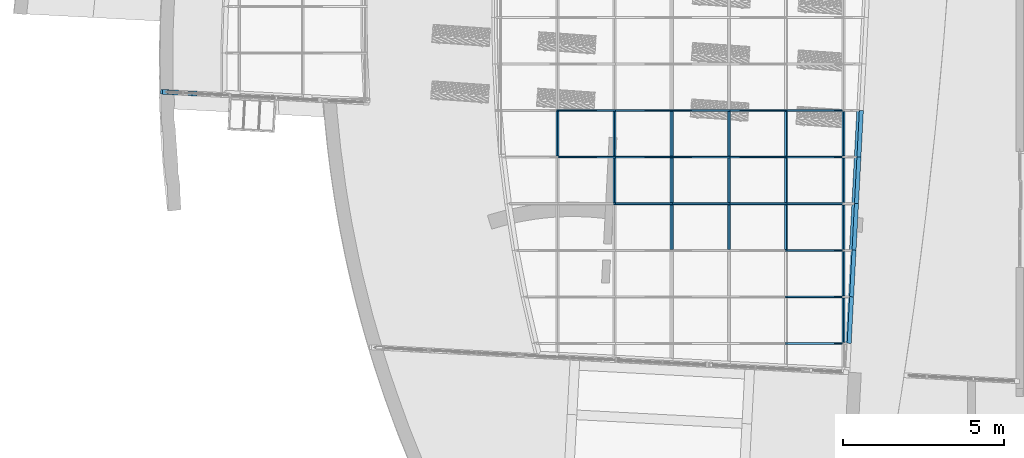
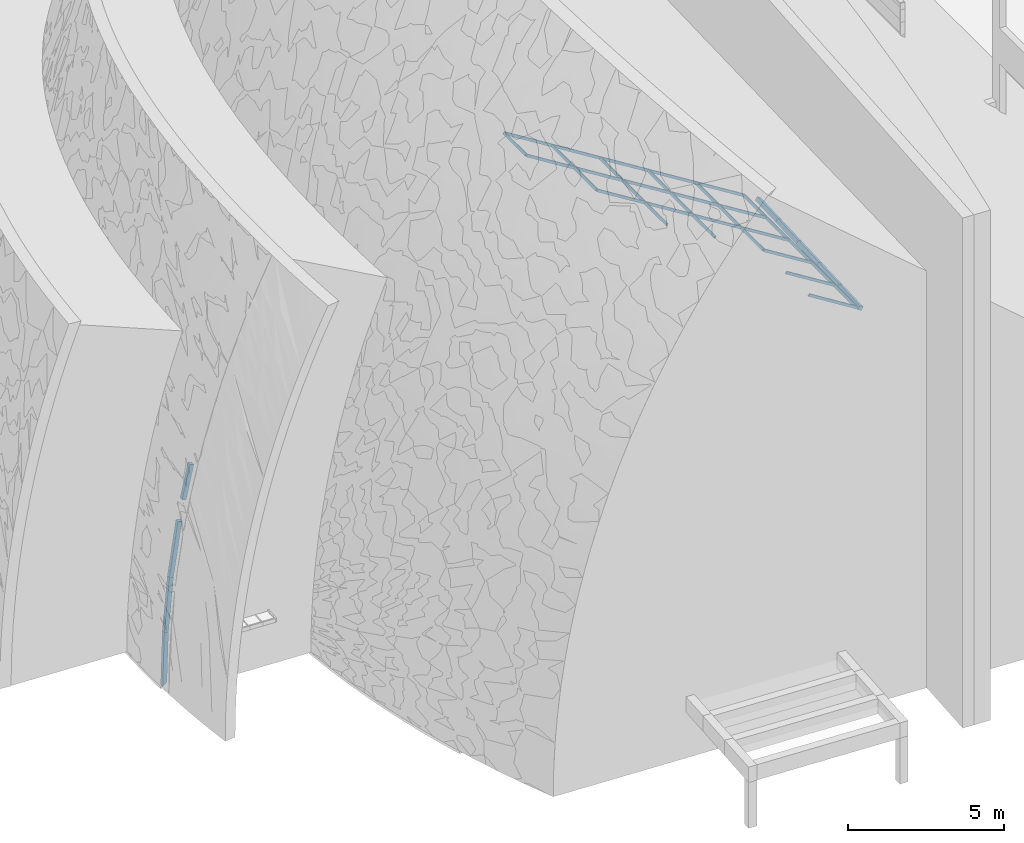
# One storey, part 7 of 82: 43 members, 2 elements without a shape of their own.
"""IFC2X3 building model written with IfcOpenShell, lengths in millimetres."""

from ifc_helpers import new_model, entity, si_unit, converted_unit, derived_unit, direction, frame, frame_2d, origin, origin_2d_with_axis, place, context, subcontext, project, spatial, rectangle, extrude, clip, halfspace, source, transform, mapped, material, type_object, type_shapes, element, aggregate, save


model = new_model("IFC2X3")

# Units and contexts
model_context = context("Model", 3, precision=0.01, world=origin(), true_north=direction((6.12303176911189e-17, 1.0)))
body_context = subcontext(model_context, "Body", "Model", "MODEL_VIEW")
ifc_project = project(units=[si_unit("LENGTHUNIT", "METRE", prefix="MILLI"), si_unit("AREAUNIT", "SQUARE_METRE"), si_unit("VOLUMEUNIT", "CUBIC_METRE"), converted_unit("PLANEANGLEUNIT", "DEGREE", entity("IfcRatioMeasure", 0.0174532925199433), si_unit("PLANEANGLEUNIT", "RADIAN"), dimensions=[0, 0, 0, 0, 0, 0, 0]), si_unit("MASSUNIT", "GRAM", prefix="KILO"), derived_unit("MASSDENSITYUNIT", [(si_unit("MASSUNIT", "GRAM", prefix="KILO"), 1), (si_unit("LENGTHUNIT", "METRE"), -3)]), si_unit("TIMEUNIT", "SECOND"), si_unit("FREQUENCYUNIT", "HERTZ"), si_unit("THERMODYNAMICTEMPERATUREUNIT", "DEGREE_CELSIUS"), derived_unit("THERMALTRANSMITTANCEUNIT", [(si_unit("MASSUNIT", "GRAM", prefix="KILO"), 1), (si_unit("THERMODYNAMICTEMPERATUREUNIT", "KELVIN"), -1), (si_unit("TIMEUNIT", "SECOND"), -3)]), derived_unit("VOLUMETRICFLOWRATEUNIT", [(si_unit("LENGTHUNIT", "METRE"), 3), (si_unit("TIMEUNIT", "SECOND"), -1)]), si_unit("ELECTRICCURRENTUNIT", "AMPERE"), si_unit("ELECTRICVOLTAGEUNIT", "VOLT"), si_unit("POWERUNIT", "WATT"), si_unit("FORCEUNIT", "NEWTON", prefix="KILO"), si_unit("ILLUMINANCEUNIT", "LUX"), si_unit("LUMINOUSFLUXUNIT", "LUMEN"), si_unit("LUMINOUSINTENSITYUNIT", "CANDELA"), derived_unit("USERDEFINED", [(si_unit("MASSUNIT", "GRAM", prefix="KILO"), -1), (si_unit("LENGTHUNIT", "METRE"), -2), (si_unit("TIMEUNIT", "SECOND"), 3), (si_unit("LUMINOUSFLUXUNIT", "LUMEN"), 1)]), derived_unit("LINEARVELOCITYUNIT", [(si_unit("LENGTHUNIT", "METRE"), 1), (si_unit("TIMEUNIT", "SECOND"), -1)]), si_unit("PRESSUREUNIT", "PASCAL"), derived_unit("USERDEFINED", [(si_unit("LENGTHUNIT", "METRE"), -2), (si_unit("MASSUNIT", "GRAM", prefix="KILO"), 1), (si_unit("TIMEUNIT", "SECOND"), -2)])], contexts=[model_context])

# Site, building, storey
site_placement = place(None, origin())
site = spatial("IfcSite", under=ifc_project, at=site_placement, Name="表面", CompositionType="ELEMENT")
building_placement = place(site_placement, origin())
building = spatial("IfcBuilding", under=site, at=building_placement, CompositionType="ELEMENT")
storey_placement = place(building_placement, origin())
storey = spatial("IfcBuildingStorey", under=building, at=storey_placement, Name="1F", CompositionType="ELEMENT", Elevation=0.0)

# Curtain wall, members
curtain_wall_type = type_object("IfcCurtainWallType", Name="幕墙系统:1450 x 2100mm", PredefinedType="NOTDEFINED")
curtain_wall_1_placement = place(storey_placement, origin())
curtain_wall_1 = element("IfcCurtainWall", 1, at=curtain_wall_1_placement, inside=storey, type_object=curtain_wall_type, Name="幕墙系统:1450 x 2100mm", ObjectType="幕墙系统:1450 x 2100mm")
ifc_material_1 = material(Name="金属 - 铝")
member_type_1 = type_object("IfcMemberType", Name="50 x 100mm", PredefinedType="MEMBER")
shared_shape_1 = source(origin(), body_context, "Body", "SweptSolid", [
    extrude(rectangle(XDim=100.0, YDim=50.0, at=origin_2d_with_axis()), frame((0.0, 0.0, -1400.0), z_axis=(0.0, 0.0, 1.0), x_axis=(0.0, -1.0, 0.0)), (0.0, 0.0, 1.0), 1400.0),
])
type_shapes(member_type_1, [shared_shape_1])
placement_1 = place(building_placement, frame((0.0, 0.0, 9000.0)))
member_1_placement = place(placement_1, frame((-19919.0996129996, -20663.9031535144, 3143.03179701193), z_axis=(0.0, 1.0, 0.0), x_axis=(-0.848048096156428, 0.0, 0.529919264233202)))
member_1 = element("IfcMember", 2, at=member_1_placement, type_object=member_type_1, material=ifc_material_1, Name="矩形竖梃:50 x 100mm", ObjectType="50 x 100mm", context=body_context, shape_type="MappedRepresentation", body=[
    mapped(shared_shape_1, transform((0.0, 0.0, 0.0), scale=1.0)),
])
member_2_placement = place(placement_1, frame((-19919.0996129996, -22113.9031535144, 3143.03179701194), z_axis=(0.0, 1.0, 0.0), x_axis=(-0.848048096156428, 0.0, 0.529919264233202)))
member_2 = element("IfcMember", 3, at=member_2_placement, type_object=member_type_1, material=ifc_material_1, Name="矩形竖梃:50 x 100mm", ObjectType="50 x 100mm", context=body_context, shape_type="MappedRepresentation", body=[
    mapped(shared_shape_1, transform((0.0, 0.0, 0.0), scale=1.0)),
])
member_3_placement = place(placement_1, frame((-19919.0996129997, -23563.9031535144, 3143.03179701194), z_axis=(0.0, 1.0, 0.0), x_axis=(-0.848048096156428, 0.0, 0.529919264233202)))
member_3 = element("IfcMember", 4, at=member_3_placement, type_object=member_type_1, material=ifc_material_1, Name="矩形竖梃:50 x 100mm", ObjectType="50 x 100mm", context=body_context, shape_type="MappedRepresentation", body=[
    mapped(shared_shape_1, transform((0.0, 0.0, 0.0), scale=1.0)),
])
member_4_placement = place(placement_1, frame((-19919.0996129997, -25013.9031535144, 3143.03179701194), z_axis=(0.0, 1.0, 0.0), x_axis=(-0.848048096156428, 0.0, 0.529919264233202)))
member_4 = element("IfcMember", 5, at=member_4_placement, type_object=member_type_1, material=ifc_material_1, Name="矩形竖梃:50 x 100mm", ObjectType="50 x 100mm", context=body_context, shape_type="MappedRepresentation", body=[
    mapped(shared_shape_1, transform((0.0, 0.0, 0.0), scale=1.0)),
])
member_5_placement = place(placement_1, frame((-19919.0996129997, -26463.9031535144, 3143.03179701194), z_axis=(0.0, 1.0, 0.0), x_axis=(-0.848048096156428, 0.0, 0.529919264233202)))
member_5 = element("IfcMember", 6, at=member_5_placement, type_object=member_type_1, material=ifc_material_1, Name="矩形竖梃:50 x 100mm", ObjectType="50 x 100mm", context=body_context, shape_type="MappedRepresentation", body=[
    mapped(shared_shape_1, transform((0.0, 0.0, 0.0), scale=1.0)),
])
member_6_placement = place(placement_1, frame((-21700.0006149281, -20663.9031535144, 4255.86225190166), z_axis=(0.0, 1.0, 0.0), x_axis=(-0.848048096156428, 0.0, 0.529919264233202)))
member_6 = element("IfcMember", 7, at=member_6_placement, type_object=member_type_1, material=ifc_material_1, Name="矩形竖梃:50 x 100mm", ObjectType="50 x 100mm", context=body_context, shape_type="MappedRepresentation", body=[
    mapped(shared_shape_1, transform((0.0, 0.0, 0.0), scale=1.0)),
])
member_7_placement = place(placement_1, frame((-21700.0006149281, -22113.9031535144, 4255.86225190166), z_axis=(0.0, 1.0, 0.0), x_axis=(-0.848048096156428, 0.0, 0.529919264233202)))
member_7 = element("IfcMember", 8, at=member_7_placement, type_object=member_type_1, material=ifc_material_1, Name="矩形竖梃:50 x 100mm", ObjectType="50 x 100mm", context=body_context, shape_type="MappedRepresentation", body=[
    mapped(shared_shape_1, transform((0.0, 0.0, 0.0), scale=1.0)),
])
member_8_placement = place(placement_1, frame((-21700.0006149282, -23563.9031535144, 4255.86225190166), z_axis=(0.0, 1.0, 0.0), x_axis=(-0.848048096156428, 0.0, 0.529919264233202)))
member_8 = element("IfcMember", 9, at=member_8_placement, type_object=member_type_1, material=ifc_material_1, Name="矩形竖梃:50 x 100mm", ObjectType="50 x 100mm", context=body_context, shape_type="MappedRepresentation", body=[
    mapped(shared_shape_1, transform((0.0, 0.0, 0.0), scale=1.0)),
])
member_9_placement = place(placement_1, frame((-23480.9016168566, -20663.9031535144, 5368.69270679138), z_axis=(0.0, 1.0, 0.0), x_axis=(-0.848048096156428, 0.0, 0.529919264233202)))
member_9 = element("IfcMember", 10, at=member_9_placement, type_object=member_type_1, material=ifc_material_1, Name="矩形竖梃:50 x 100mm", ObjectType="50 x 100mm", context=body_context, shape_type="MappedRepresentation", body=[
    mapped(shared_shape_1, transform((0.0, 0.0, 0.0), scale=1.0)),
])
member_10_placement = place(placement_1, frame((-23480.9016168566, -22113.9031535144, 5368.69270679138), z_axis=(0.0, 1.0, 0.0), x_axis=(-0.848048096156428, 0.0, 0.529919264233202)))
member_10 = element("IfcMember", 11, at=member_10_placement, type_object=member_type_1, material=ifc_material_1, Name="矩形竖梃:50 x 100mm", ObjectType="50 x 100mm", context=body_context, shape_type="MappedRepresentation", body=[
    mapped(shared_shape_1, transform((0.0, 0.0, 0.0), scale=1.0)),
])
member_11_placement = place(placement_1, frame((-23480.9016168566, -23563.9031535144, 5368.69270679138), z_axis=(0.0, 1.0, 0.0), x_axis=(-0.848048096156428, 0.0, 0.529919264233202)))
member_11 = element("IfcMember", 12, at=member_11_placement, type_object=member_type_1, material=ifc_material_1, Name="矩形竖梃:50 x 100mm", ObjectType="50 x 100mm", context=body_context, shape_type="MappedRepresentation", body=[
    mapped(shared_shape_1, transform((0.0, 0.0, 0.0), scale=1.0)),
])
member_12_placement = place(placement_1, frame((-25261.8026187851, -20663.9031535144, 6481.5231616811), z_axis=(0.0, 1.0, 0.0), x_axis=(-0.848048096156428, 0.0, 0.529919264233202)))
member_12 = element("IfcMember", 13, at=member_12_placement, type_object=member_type_1, material=ifc_material_1, Name="矩形竖梃:50 x 100mm", ObjectType="50 x 100mm", context=body_context, shape_type="MappedRepresentation", body=[
    mapped(shared_shape_1, transform((0.0, 0.0, 0.0), scale=1.0)),
])
member_13_placement = place(placement_1, frame((-25261.8026187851, -22113.9031535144, 6481.52316168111), z_axis=(0.0, 1.0, 0.0), x_axis=(-0.848048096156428, 0.0, 0.529919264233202)))
member_13 = element("IfcMember", 14, at=member_13_placement, type_object=member_type_1, material=ifc_material_1, Name="矩形竖梃:50 x 100mm", ObjectType="50 x 100mm", context=body_context, shape_type="MappedRepresentation", body=[
    mapped(shared_shape_1, transform((0.0, 0.0, 0.0), scale=1.0)),
])
member_14_placement = place(placement_1, frame((-25261.8026187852, -23563.9031535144, 6481.52316168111), z_axis=(0.0, 1.0, 0.0), x_axis=(-0.848048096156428, 0.0, 0.529919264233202)))
member_14 = element("IfcMember", 15, at=member_14_placement, type_object=member_type_1, material=ifc_material_1, Name="矩形竖梃:50 x 100mm", ObjectType="50 x 100mm", context=body_context, shape_type="MappedRepresentation", body=[
    mapped(shared_shape_1, transform((0.0, 0.0, 0.0), scale=1.0)),
])
member_15_placement = place(placement_1, frame((-27042.7036207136, -20663.9031535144, 7594.35361657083), z_axis=(0.0, 1.0, 0.0), x_axis=(-0.848048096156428, 0.0, 0.529919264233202)))
member_15 = element("IfcMember", 16, at=member_15_placement, type_object=member_type_1, material=ifc_material_1, Name="矩形竖梃:50 x 100mm", ObjectType="50 x 100mm", context=body_context, shape_type="MappedRepresentation", body=[
    mapped(shared_shape_1, transform((0.0, 0.0, 0.0), scale=1.0)),
])
member_16_placement = place(placement_1, frame((-27042.7036207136, -22113.9031535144, 7594.35361657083), z_axis=(0.0, 1.0, 0.0), x_axis=(-0.848048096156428, 0.0, 0.529919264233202)))
member_16 = element("IfcMember", 17, at=member_16_placement, type_object=member_type_1, material=ifc_material_1, Name="矩形竖梃:50 x 100mm", ObjectType="50 x 100mm", context=body_context, shape_type="MappedRepresentation", body=[
    mapped(shared_shape_1, transform((0.0, 0.0, 0.0), scale=1.0)),
])
member_17_placement = place(placement_1, frame((-28823.6046226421, -20663.9031535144, 8707.18407146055), z_axis=(0.0, 1.0, 0.0), x_axis=(-0.848048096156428, 0.0, 0.529919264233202)))
member_17 = element("IfcMember", 18, at=member_17_placement, type_object=member_type_1, material=ifc_material_1, Name="矩形竖梃:50 x 100mm", ObjectType="50 x 100mm", context=body_context, shape_type="MappedRepresentation", body=[
    mapped(shared_shape_1, transform((0.0, 0.0, 0.0), scale=1.0)),
])
member_type_2 = type_object("IfcMemberType", Name="50 x 100mm", PredefinedType="MEMBER")
shared_shape_2 = source(origin(), body_context, "Body", "SweptSolid", [
    extrude(rectangle(XDim=100.0, YDim=50.0, at=origin_2d_with_axis()), frame((0.0, 0.0, -2100.0), z_axis=(0.0, 0.0, 1.0), x_axis=(0.0, -1.0, 0.0)), (0.0, 0.0, 1.0), 2100.0),
])
type_shapes(member_type_2, [shared_shape_2])
member_18_placement = place(placement_1, frame((-21700.0006149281, -20638.9031535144, 4255.86225190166), z_axis=(-0.848048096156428, 0.0, 0.529919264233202), x_axis=(0.0, -1.0, 0.0)))
member_18 = element("IfcMember", 19, at=member_18_placement, type_object=member_type_2, material=ifc_material_1, Name="矩形竖梃:50 x 100mm", ObjectType="50 x 100mm", context=body_context, shape_type="MappedRepresentation", body=[
    mapped(shared_shape_2, transform((0.0, 0.0, 0.0), scale=1.0)),
])
member_19_placement = place(placement_1, frame((-21700.0006149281, -22088.9031535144, 4255.86225190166), z_axis=(-0.848048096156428, 0.0, 0.529919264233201), x_axis=(0.0, -1.0, 0.0)))
member_19 = element("IfcMember", 20, at=member_19_placement, type_object=member_type_2, material=ifc_material_1, Name="矩形竖梃:50 x 100mm", ObjectType="50 x 100mm", context=body_context, shape_type="MappedRepresentation", body=[
    mapped(shared_shape_2, transform((0.0, 0.0, 0.0), scale=1.0)),
])
member_20_placement = place(placement_1, frame((-21700.0006149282, -23538.9031535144, 4255.86225190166), z_axis=(-0.848048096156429, 0.0, 0.529919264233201), x_axis=(0.0, -1.0, 0.0)))
member_20 = element("IfcMember", 21, at=member_20_placement, type_object=member_type_2, material=ifc_material_1, Name="矩形竖梃:50 x 100mm", ObjectType="50 x 100mm", context=body_context, shape_type="MappedRepresentation", body=[
    mapped(shared_shape_2, transform((0.0, 0.0, 0.0), scale=1.0)),
])
member_21_placement = place(placement_1, frame((-21700.0006149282, -24988.9031535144, 4255.86225190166), z_axis=(-0.848048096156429, 0.0, 0.529919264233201), x_axis=(0.0, -1.0, 0.0)))
member_21 = element("IfcMember", 22, at=member_21_placement, type_object=member_type_2, material=ifc_material_1, Name="矩形竖梃:50 x 100mm", ObjectType="50 x 100mm", context=body_context, shape_type="MappedRepresentation", body=[
    mapped(shared_shape_2, transform((0.0, 0.0, 0.0), scale=1.0)),
])
member_22_placement = place(placement_1, frame((-21700.0006149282, -26438.9031535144, 4255.86225190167), z_axis=(-0.848048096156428, 0.0, 0.529919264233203), x_axis=(0.0, -1.0, 0.0)))
member_22 = element("IfcMember", 23, at=member_22_placement, type_object=member_type_2, material=ifc_material_1, Name="矩形竖梃:50 x 100mm", ObjectType="50 x 100mm", context=body_context, shape_type="MappedRepresentation", body=[
    mapped(shared_shape_2, transform((0.0, 0.0, 0.0), scale=1.0)),
])
member_23_placement = place(placement_1, frame((-21700.0006149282, -27888.9031535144, 4255.86225190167), z_axis=(-0.848048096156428, 0.0, 0.529919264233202), x_axis=(0.0, -1.0, 0.0)))
member_23 = element("IfcMember", 24, at=member_23_placement, type_object=member_type_2, material=ifc_material_1, Name="矩形竖梃:50 x 100mm", ObjectType="50 x 100mm", context=body_context, shape_type="MappedRepresentation", body=[
    mapped(shared_shape_2, transform((0.0, 0.0, 0.0), scale=1.0)),
])
member_24_placement = place(placement_1, frame((-23480.9016168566, -20638.9031535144, 5368.69270679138), z_axis=(-0.848048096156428, 0.0, 0.529919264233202), x_axis=(0.0, -1.0, 0.0)))
member_24 = element("IfcMember", 25, at=member_24_placement, type_object=member_type_2, material=ifc_material_1, Name="矩形竖梃:50 x 100mm", ObjectType="50 x 100mm", context=body_context, shape_type="MappedRepresentation", body=[
    mapped(shared_shape_2, transform((0.0, 0.0, 0.0), scale=1.0)),
])
member_25_placement = place(placement_1, frame((-23480.9016168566, -22088.9031535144, 5368.69270679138), z_axis=(-0.848048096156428, 0.0, 0.529919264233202), x_axis=(0.0, -1.0, 0.0)))
member_25 = element("IfcMember", 26, at=member_25_placement, type_object=member_type_2, material=ifc_material_1, Name="矩形竖梃:50 x 100mm", ObjectType="50 x 100mm", context=body_context, shape_type="MappedRepresentation", body=[
    mapped(shared_shape_2, transform((0.0, 0.0, 0.0), scale=1.0)),
])
member_26_placement = place(placement_1, frame((-23480.9016168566, -23538.9031535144, 5368.69270679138), z_axis=(-0.848048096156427, 0.0, 0.529919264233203), x_axis=(0.0, -1.0, 0.0)))
member_26 = element("IfcMember", 27, at=member_26_placement, type_object=member_type_2, material=ifc_material_1, Name="矩形竖梃:50 x 100mm", ObjectType="50 x 100mm", context=body_context, shape_type="MappedRepresentation", body=[
    mapped(shared_shape_2, transform((0.0, 0.0, 0.0), scale=1.0)),
])
member_27_placement = place(placement_1, frame((-25261.8026187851, -20638.9031535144, 6481.52316168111), z_axis=(-0.848048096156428, 0.0, 0.529919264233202), x_axis=(0.0, -1.0, 0.0)))
member_27 = element("IfcMember", 28, at=member_27_placement, type_object=member_type_2, material=ifc_material_1, Name="矩形竖梃:50 x 100mm", ObjectType="50 x 100mm", context=body_context, shape_type="MappedRepresentation", body=[
    mapped(shared_shape_2, transform((0.0, 0.0, 0.0), scale=1.0)),
])
member_28_placement = place(placement_1, frame((-25261.8026187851, -22088.9031535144, 6481.52316168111), z_axis=(-0.848048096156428, 0.0, 0.529919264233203), x_axis=(0.0, -1.0, 0.0)))
member_28 = element("IfcMember", 29, at=member_28_placement, type_object=member_type_2, material=ifc_material_1, Name="矩形竖梃:50 x 100mm", ObjectType="50 x 100mm", context=body_context, shape_type="MappedRepresentation", body=[
    mapped(shared_shape_2, transform((0.0, 0.0, 0.0), scale=1.0)),
])
member_29_placement = place(placement_1, frame((-25261.8026187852, -23538.9031535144, 6481.52316168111), z_axis=(-0.848048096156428, 0.0, 0.529919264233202), x_axis=(0.0, -1.0, 0.0)))
member_29 = element("IfcMember", 30, at=member_29_placement, type_object=member_type_2, material=ifc_material_1, Name="矩形竖梃:50 x 100mm", ObjectType="50 x 100mm", context=body_context, shape_type="MappedRepresentation", body=[
    mapped(shared_shape_2, transform((0.0, 0.0, 0.0), scale=1.0)),
])
member_30_placement = place(placement_1, frame((-27042.7036207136, -20638.9031535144, 7594.35361657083), z_axis=(-0.848048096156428, 0.0, 0.529919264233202), x_axis=(0.0, -1.0, 0.0)))
member_30 = element("IfcMember", 31, at=member_30_placement, type_object=member_type_2, material=ifc_material_1, Name="矩形竖梃:50 x 100mm", ObjectType="50 x 100mm", context=body_context, shape_type="MappedRepresentation", body=[
    mapped(shared_shape_2, transform((0.0, 0.0, 0.0), scale=1.0)),
])
member_31_placement = place(placement_1, frame((-27042.7036207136, -22088.9031535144, 7594.35361657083), z_axis=(-0.848048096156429, 0.0, 0.529919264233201), x_axis=(0.0, -1.0, 0.0)))
member_31 = element("IfcMember", 32, at=member_31_placement, type_object=member_type_2, material=ifc_material_1, Name="矩形竖梃:50 x 100mm", ObjectType="50 x 100mm", context=body_context, shape_type="MappedRepresentation", body=[
    mapped(shared_shape_2, transform((0.0, 0.0, 0.0), scale=1.0)),
])
member_32_placement = place(placement_1, frame((-27042.7036207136, -23538.9031535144, 7594.35361657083), z_axis=(-0.848048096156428, 0.0, 0.529919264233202), x_axis=(0.0, -1.0, 0.0)))
member_32 = element("IfcMember", 33, at=member_32_placement, type_object=member_type_2, material=ifc_material_1, Name="矩形竖梃:50 x 100mm", ObjectType="50 x 100mm", context=body_context, shape_type="MappedRepresentation", body=[
    mapped(shared_shape_2, transform((0.0, 0.0, 0.0), scale=1.0)),
])
member_33_placement = place(placement_1, frame((-28823.6046226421, -20638.9031535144, 8707.18407146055), z_axis=(-0.848048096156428, 0.0, 0.529919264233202), x_axis=(0.0, -1.0, 0.0)))
member_33 = element("IfcMember", 34, at=member_33_placement, type_object=member_type_2, material=ifc_material_1, Name="矩形竖梃:50 x 100mm", ObjectType="50 x 100mm", context=body_context, shape_type="MappedRepresentation", body=[
    mapped(shared_shape_2, transform((0.0, 0.0, 0.0), scale=1.0)),
])
member_34_placement = place(placement_1, frame((-28823.6046226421, -22088.9031535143, 8707.18407146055), z_axis=(-0.848048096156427, 0.0, 0.529919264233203), x_axis=(0.0, -1.0, 0.0)))
member_34 = element("IfcMember", 35, at=member_34_placement, type_object=member_type_2, material=ifc_material_1, Name="矩形竖梃:50 x 100mm", ObjectType="50 x 100mm", context=body_context, shape_type="MappedRepresentation", body=[
    mapped(shared_shape_2, transform((0.0, 0.0, 0.0), scale=1.0)),
])
ifc_material_2 = material(Name="木质 - 木材")
member_type_3 = type_object("IfcMemberType", Name="200 x 150mm", PredefinedType="MEMBER")
shared_shape_3 = source(origin(), body_context, "Body", "SweptSolid", [
    extrude(rectangle(XDim=150.0, YDim=150.0, at=frame_2d((2.8421709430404e-14, 0.0), x_axis=(1.0, 0.0))), frame((-75.0, 0.0, -1452.76614220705), z_axis=(0.0, 0.0, 1.0), x_axis=(0.0, -1.0, 0.0)), (0.0, 0.0, 1.0), 1452.76614220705),
])
type_shapes(member_type_3, [shared_shape_3])
member_35_placement = place(placement_1, frame((-19409.5538351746, -22088.9031535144, 2824.63225705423), z_axis=(-0.0523079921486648, -0.998095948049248, 0.0326856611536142), x_axis=(0.846433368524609, -0.0616804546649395, -0.528910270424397)))
member_35 = element("IfcMember", 36, at=member_35_placement, type_object=member_type_3, material=ifc_material_2, Name="矩形竖梃:200 x 150mm", ObjectType="200 x 150mm", context=body_context, shape_type="MappedRepresentation", body=[
    mapped(shared_shape_3, transform((0.0, 0.0, 0.0), scale=1.0)),
])
member_36_placement = place(placement_1, frame((-19485.545115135, -23538.9031535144, 2872.11687891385), z_axis=(-0.0523079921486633, -0.998095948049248, 0.0326856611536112), x_axis=(0.84643336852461, -0.0616804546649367, -0.528910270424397)))
member_36 = element("IfcMember", 37, at=member_36_placement, type_object=member_type_3, material=ifc_material_2, Name="矩形竖梃:200 x 150mm", ObjectType="200 x 150mm", context=body_context, shape_type="MappedRepresentation", body=[
    mapped(shared_shape_3, transform((0.0, 0.0, 0.0), scale=1.0)),
])
member_37_placement = place(placement_1, frame((-19561.5363950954, -24988.9031535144, 2919.60150077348), z_axis=(-0.0523079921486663, -0.998095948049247, 0.0326856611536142), x_axis=(0.846433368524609, -0.0616804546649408, -0.528910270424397)))
member_37 = element("IfcMember", 38, at=member_37_placement, type_object=member_type_3, material=ifc_material_2, Name="矩形竖梃:200 x 150mm", ObjectType="200 x 150mm", context=body_context, shape_type="MappedRepresentation", body=[
    mapped(shared_shape_3, transform((0.0, 0.0, 0.0), scale=1.0)),
])
member_38_placement = place(placement_1, frame((-19637.5276750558, -26438.9031535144, 2967.0861226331), z_axis=(-0.0523079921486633, -0.998095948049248, 0.0326856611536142), x_axis=(0.846433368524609, -0.0616804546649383, -0.528910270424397)))
member_38 = element("IfcMember", 39, at=member_38_placement, type_object=member_type_3, material=ifc_material_2, Name="矩形竖梃:200 x 150mm", ObjectType="200 x 150mm", context=body_context, shape_type="MappedRepresentation", body=[
    mapped(shared_shape_3, transform((0.0, 0.0, 0.0), scale=1.0)),
])
member_type_4 = type_object("IfcMemberType", Name="200 x 150mm", PredefinedType="MEMBER")
shared_shape_4 = source(origin(), body_context, "Body", "SweptSolid", [
    extrude(rectangle(XDim=150.0, YDim=150.0, at=frame_2d((2.8421709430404e-14, 0.0), x_axis=(1.0, 0.0))), frame((-75.0, 0.0, -1452.76614220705), z_axis=(0.0, 0.0, 1.0), x_axis=(0.0, -1.0, 0.0)), (0.0, 0.0, 1.0), 1452.76614220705),
])
type_shapes(member_type_4, [shared_shape_4])
member_39_placement = place(placement_1, frame((-19713.5189550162, -27888.9031535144, 3014.57074449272), z_axis=(-0.0523079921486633, -0.998095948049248, 0.0326856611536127), x_axis=(0.84643336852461, -0.0616804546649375, -0.528910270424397)))
member_39 = element("IfcMember", 40, at=member_39_placement, type_object=member_type_4, material=ifc_material_2, Name="矩形竖梃:200 x 150mm", ObjectType="200 x 150mm", context=body_context, shape_type="MappedRepresentation", body=[
    mapped(shared_shape_4, transform((0.0, 0.0, 0.0), scale=1.0)),
])
aggregate(curtain_wall_1, [member_35, member_36, member_37, member_38, member_39, member_1, member_2, member_3, member_4, member_5, member_6, member_7, member_8, member_9, member_10, member_11, member_12, member_13, member_14, member_15, member_16, member_17, member_18, member_19, member_20, member_21, member_22, member_23, member_24, member_25, member_26, member_27, member_28, member_29, member_30, member_31, member_32, member_33, member_34])

curtain_wall_2_placement = place(storey_placement, origin())
curtain_wall_2 = element("IfcCurtainWall", 41, at=curtain_wall_2_placement, inside=storey, type_object=curtain_wall_type, Name="幕墙系统:1450 x 2100mm", ObjectType="幕墙系统:1450 x 2100mm")
member_type_5 = type_object("IfcMemberType", Name="200 x 150mm", PredefinedType="MEMBER")
shared_shape_5 = source(origin(), body_context, "Body", "Clipping", [
    clip(clip(extrude(rectangle(XDim=150.0, YDim=150.0, at=origin_2d_with_axis()), frame((-75.0, 0.0, -2100.87704792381), z_axis=(0.0, 0.0, 1.0), x_axis=(0.0, -1.0, 0.0)), (0.0, 0.0, 1.0), 2100.87704792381), halfspace(frame((0.0, -304.8, -2100.87704792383), z_axis=(-0.717248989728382, 0.0, -0.696816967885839), x_axis=(-0.696816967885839, 0.0, 0.717248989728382)), False)), halfspace(frame((0.0, -304.800000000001, 0.0), z_axis=(-0.0289407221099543, 0.0, 0.999581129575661), x_axis=(-0.999581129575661, 0.0, -0.0289407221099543)), False)),
])
type_shapes(member_type_5, [shared_shape_5])
member_40_placement = place(storey_placement, frame((-41113.0369852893, -20054.4813030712, 2100.0), z_axis=(0.0288526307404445, -0.00151210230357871, 0.999582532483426), x_axis=(-0.998212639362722, 0.0523141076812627, 0.0288922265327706)))
member_40 = element("IfcMember", 42, at=member_40_placement, type_object=member_type_5, material=ifc_material_2, Name="矩形竖梃:200 x 150mm", ObjectType="200 x 150mm", context=body_context, shape_type="MappedRepresentation", body=[
    mapped(shared_shape_5, transform((0.0, 0.0, 0.0), scale=1.0)),
])
member_type_6 = type_object("IfcMemberType", Name="200 x 150mm", PredefinedType="MEMBER")
shared_shape_6 = source(origin(), body_context, "Body", "Clipping", [
    clip(clip(extrude(rectangle(XDim=150.0, YDim=150.0, at=frame_2d((0.0, 3.5527136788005e-14), x_axis=(1.0, 0.0))), frame((-75.0, 0.0, -2107.9332538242), z_axis=(0.0, 0.0, 1.0), x_axis=(0.0, -1.0, 0.0)), (0.0, 0.0, 1.0), 2107.9332538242), halfspace(frame((0.0, -304.799999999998, -2107.9332538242), z_axis=(-0.0289407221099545, 0.0, -0.999581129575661), x_axis=(-0.999581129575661, 0.0, 0.0289407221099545)), False)), halfspace(frame((0.0, -304.8, 0.0), z_axis=(-0.0290877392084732, 0.0, 0.999576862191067), x_axis=(-0.999576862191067, 0.0, -0.0290877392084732)), False)),
])
type_shapes(member_type_6, [shared_shape_6])
member_41_placement = place(storey_placement, frame((-40930.5783163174, -20064.043556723, 4200.0), z_axis=(0.0865580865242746, -0.00453631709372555, 0.99623647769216), x_axis=(-0.994871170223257, 0.0521389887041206, 0.0866768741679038)))
member_41 = element("IfcMember", 43, at=member_41_placement, type_object=member_type_6, material=ifc_material_2, Name="矩形竖梃:200 x 150mm", ObjectType="200 x 150mm", context=body_context, shape_type="MappedRepresentation", body=[
    mapped(shared_shape_6, transform((0.0, 0.0, 0.0), scale=1.0)),
])
member_type_7 = type_object("IfcMemberType", Name="200 x 150mm", PredefinedType="MEMBER")
shared_shape_7 = source(origin(), body_context, "Body", "Clipping", [
    clip(clip(extrude(rectangle(XDim=150.0, YDim=150.0, at=frame_2d((0.0, 4.9737991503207e-14), x_axis=(1.0, 0.0))), frame((-75.0, 0.0, -2122.26185153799), z_axis=(0.0, 0.0, 1.0), x_axis=(0.0, -1.0, 0.0)), (0.0, 0.0, 1.0), 2122.26185153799), halfspace(frame((0.0, -304.8, -2122.26185153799), z_axis=(-0.0290877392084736, 0.0, -0.999576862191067), x_axis=(-0.999576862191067, 0.0, 0.0290877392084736)), False)), halfspace(frame((0.0, -304.800000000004, 0.0), z_axis=(-0.0201955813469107, 0.0, 0.999796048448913), x_axis=(-0.999796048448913, 0.0, -0.0201955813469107)), False)),
])
type_shapes(member_type_7, [shared_shape_7])
placement_2 = place(building_placement, frame((0.0, 0.0, 3000.0)))
member_42_placement = place(placement_2, frame((-40624.4118448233, -20080.0890615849, 3300.0), z_axis=(0.144264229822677, -0.00756056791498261, 0.989510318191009), x_axis=(-0.988154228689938, 0.0517869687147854, 0.144462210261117)))
member_42 = element("IfcMember", 44, at=member_42_placement, type_object=member_type_7, material=ifc_material_2, Name="矩形竖梃:200 x 150mm", ObjectType="200 x 150mm", context=body_context, shape_type="MappedRepresentation", body=[
    mapped(shared_shape_7, transform((0.0, 0.0, 0.0), scale=1.0)),
])
member_type_8 = type_object("IfcMemberType", Name="200 x 150mm", PredefinedType="MEMBER")
shared_shape_8 = source(origin(), body_context, "Body", "Clipping", [
    clip(clip(extrude(rectangle(XDim=150.0, YDim=150.0, at=origin_2d_with_axis()), frame((-75.0, 0.0, -1329.89570677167), z_axis=(0.0, 0.0, 1.0), x_axis=(0.0, -1.0, 0.0)), (0.0, 0.0, 1.0), 1329.89570677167), halfspace(frame((0.0, -304.799999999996, -1329.89570677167), z_axis=(-0.0147464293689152, 0.0, -0.999891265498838), x_axis=(-0.999891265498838, 0.0, 0.0147464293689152)), False)), halfspace(frame((0.0, -304.8, 0.0), z_axis=(-0.0240995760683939, 0.0, 0.999709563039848), x_axis=(-0.999709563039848, 0.0, -0.0240995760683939)), False)),
])
type_shapes(member_type_8, [shared_shape_8])
placement_3 = place(building_placement, frame((0.0, 0.0, 6000.0)))
member_43_placement = place(placement_3, frame((-40191.3209733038, -20102.786392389, 2400.0), z_axis=(0.212915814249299, -0.0111584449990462, 0.977006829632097), x_axis=(-0.975667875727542, 0.0511325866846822, 0.213208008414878)))
member_43 = element("IfcMember", 45, at=member_43_placement, type_object=member_type_8, material=ifc_material_2, Name="矩形竖梃:200 x 150mm", ObjectType="200 x 150mm", context=body_context, shape_type="MappedRepresentation", body=[
    mapped(shared_shape_8, transform((0.0, 0.0, 0.0), scale=1.0)),
])
aggregate(curtain_wall_2, [member_40, member_41, member_42, member_43])

save(model, "model.ifc")
